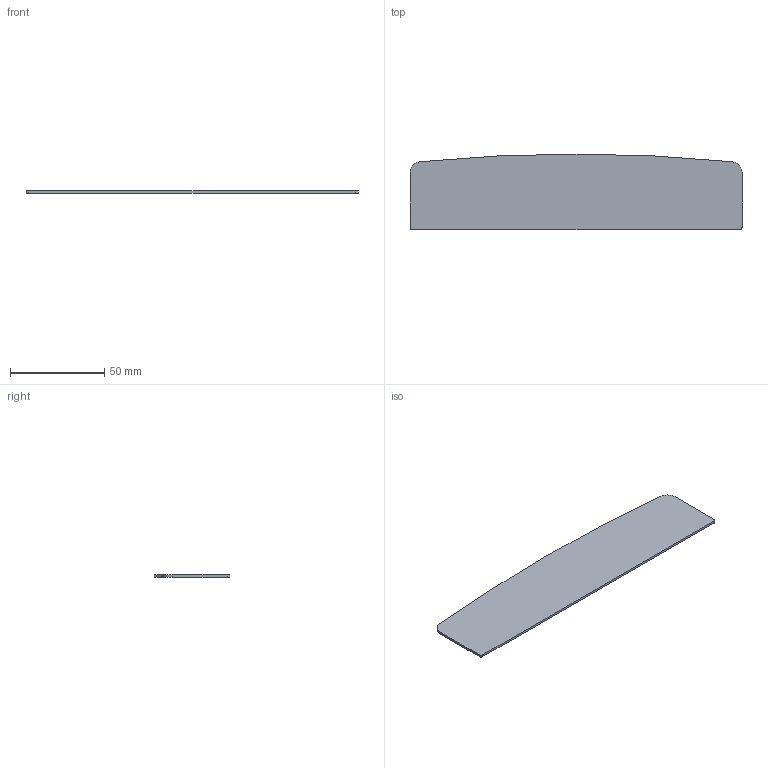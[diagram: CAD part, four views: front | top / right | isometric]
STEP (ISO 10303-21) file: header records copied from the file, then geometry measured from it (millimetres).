
FILE_DESCRIPTION(('Open CASCADE Model'),'2;1');
FILE_NAME('Open CASCADE Shape Model','2026-09-26T16:24:15',('Author'),( 'Open CASCADE'),'Open CASCADE STEP processor 7.9','Open CASCADE 7.9' ,'Unknown');
FILE_SCHEMA(('AUTOMOTIVE_DESIGN { 1 0 10303 214 1 1 1 1 }'));
Length unit declared in the file: millimetre
Products named in the file (1): Open CASCADE STEP translator 7.9 6
Bounding box: 175.72 x 40.22 x 1.22 mm (x, y, z)
Volume: 8271.2 mm3; surface area: 14074.3 mm2
Topology: 1 solids, 1 shells, 10 faces, 24 edges, 16 vertices
Faces by surface type: plane 5, cylinder 5
Entity records: 600 total; most frequent: CARTESIAN_POINT 119, DIRECTION 84, ORIENTED_EDGE 48, PCURVE 48, DEFINITIONAL_REPRESENTATION 48, LINE 32, VECTOR 32, EDGE_CURVE 24
